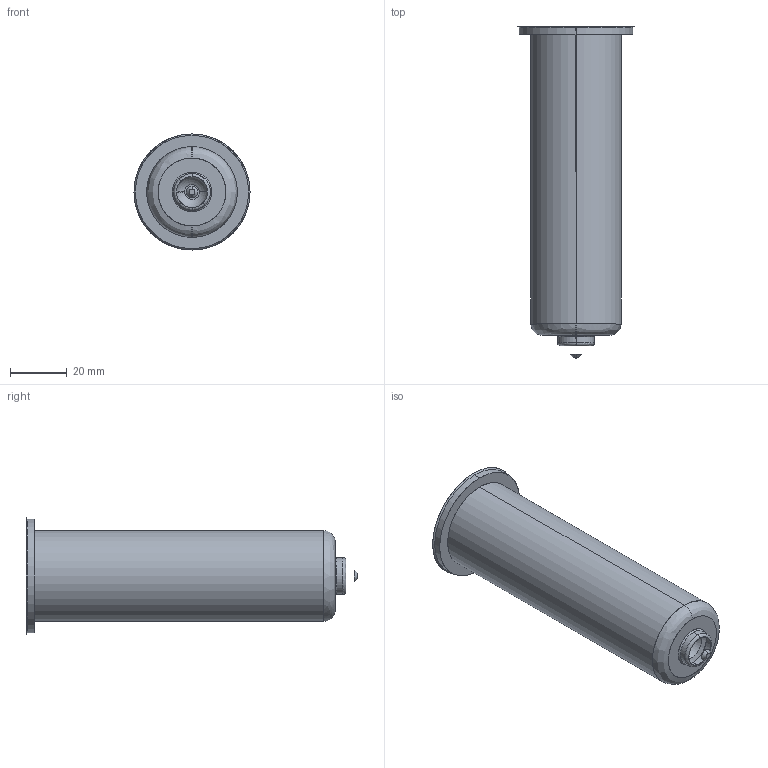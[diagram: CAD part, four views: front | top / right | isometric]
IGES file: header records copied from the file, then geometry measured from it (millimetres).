
Start section: SolidWorks IGES file using analytic representation for surfaces
Global section: file name: C:\Documents and Settings\ws-20\Desktop\TEM\Sede UGEP4503-M-A C-114 L-149 Ød-2.0.IGS; native system: SolidWorks 2012; preprocessor: SolidWorks 2012; author: ws-20; date: 120424.083521; units: millimetre
Bounding box: 41 x 117.29 x 41 mm (x, y, z)
Surface area: 13661.2 mm2 (no closed solid volume)
Topology: 0 solids, 0 shells, 25 faces, 436 edges, 436 vertices
Faces by surface type: revolution 16, bspline 9
